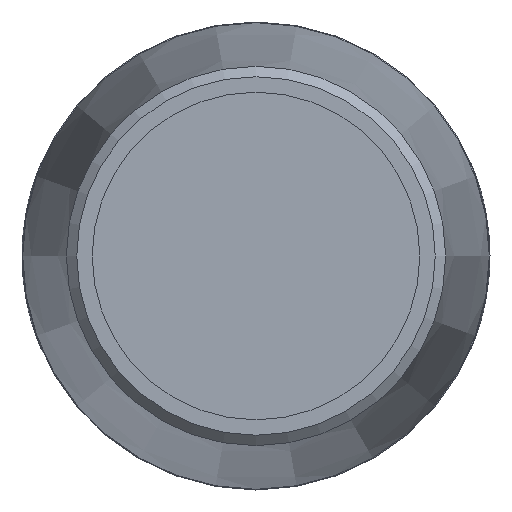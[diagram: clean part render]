
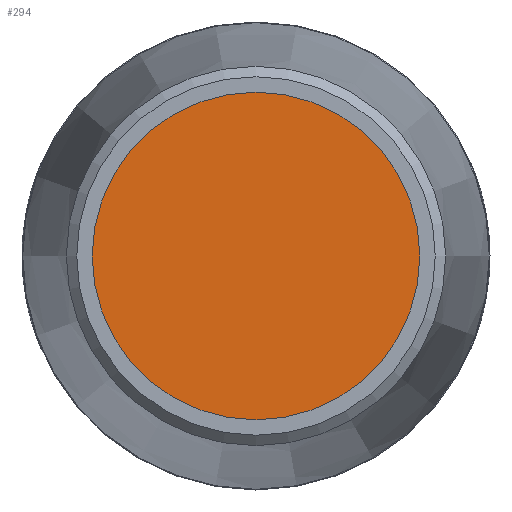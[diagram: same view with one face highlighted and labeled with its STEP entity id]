
A CAD part, left-side view. The second image highlights one B-rep face of the part: STEP entity #294.
In plain terms, the highlighted planar face has unit normal (-1, 0, 0).
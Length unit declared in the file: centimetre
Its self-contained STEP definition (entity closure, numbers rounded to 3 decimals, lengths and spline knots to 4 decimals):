
#48=PLANE('',#329);
#77=FACE_OUTER_BOUND('',#108,.T.);
#108=EDGE_LOOP('',(#214));
#134=CIRCLE('',#328,0.84);
#148=VERTEX_POINT('',#455);
#174=EDGE_CURVE('',#148,#148,#134,.T.);
#214=ORIENTED_EDGE('',*,*,#174,.T.);
#294=ADVANCED_FACE('',(#77),#48,.T.);
#328=AXIS2_PLACEMENT_3D('',#456,#387,#388);
#329=AXIS2_PLACEMENT_3D('',#457,#389,#390);
#387=DIRECTION('center_axis',(-1.,0.,0.));
#388=DIRECTION('ref_axis',(0.,0.,1.));
#389=DIRECTION('center_axis',(-1.,0.,0.));
#390=DIRECTION('ref_axis',(0.,0.,1.));
#455=CARTESIAN_POINT('',(-6.,-0.84,0.));
#456=CARTESIAN_POINT('Origin',(-6.,0.,
0.));
#457=CARTESIAN_POINT('Origin',(-6.,0.,
0.));
